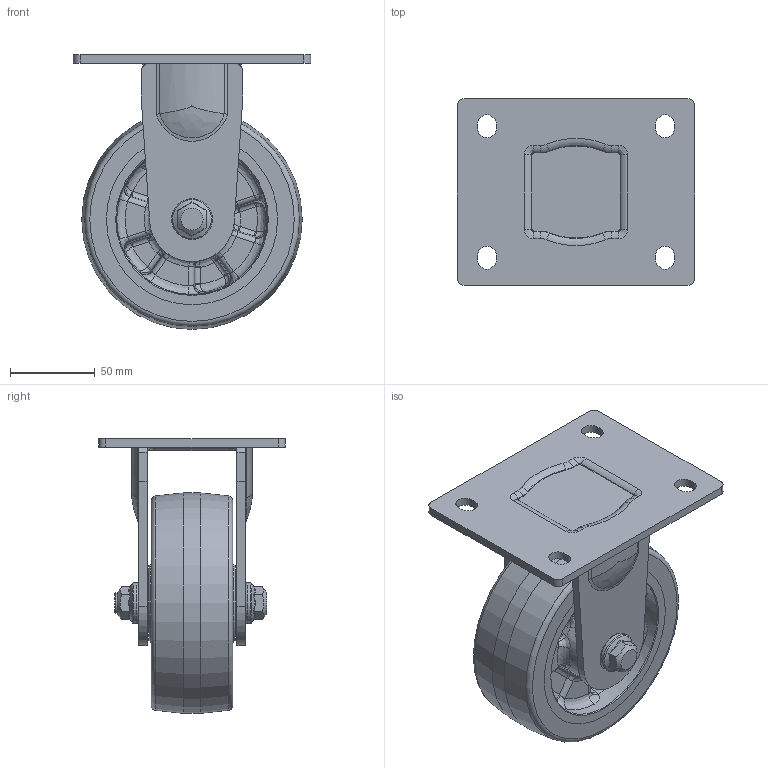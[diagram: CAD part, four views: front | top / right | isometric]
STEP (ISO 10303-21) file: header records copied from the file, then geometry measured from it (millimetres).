
FILE_DESCRIPTION((''),'2;1');
FILE_NAME('C:\Documents and Settings\Administrator\바탕 화면\3D STEP\PMW-SERIES\PMW-130\PMW-130A-RF.stp','2010-12-27T15:06:06',('Administrator'),(''),'Autodesk Inventor 2009','Autodesk Inventor 2009','');
FILE_SCHEMA(('AUTOMOTIVE_DESIGN { 1 0 10303 214 1 1 1 1 }'));
Length unit declared in the file: millimetre
Products named in the file (1): PMW-130A-RF
Bounding box: 140 x 110 x 162 mm (x, y, z)
Volume: 569685 mm3; surface area: 155654 mm2
Topology: 5 solids, 8 shells, 561 faces, 1410 edges, 837 vertices
Faces by surface type: bspline 269, plane 111, cylinder 102, cone 57, torus 22
Full cylindrical faces by diameter (mm): 12 x2, 15 x2, 15.2 x2, 21.5 x1, 24 x2, 30.5 x2, 35 x2, 35.18 x2, 130 x1
Entity records: 32968 total; most frequent: CARTESIAN_POINT 21286, ORIENTED_EDGE 2640, DIRECTION 2050, EDGE_CURVE 1320, AXIS2_PLACEMENT_3D 895, VERTEX_POINT 824, EDGE_LOOP 642, FACE_OUTER_BOUND 559
